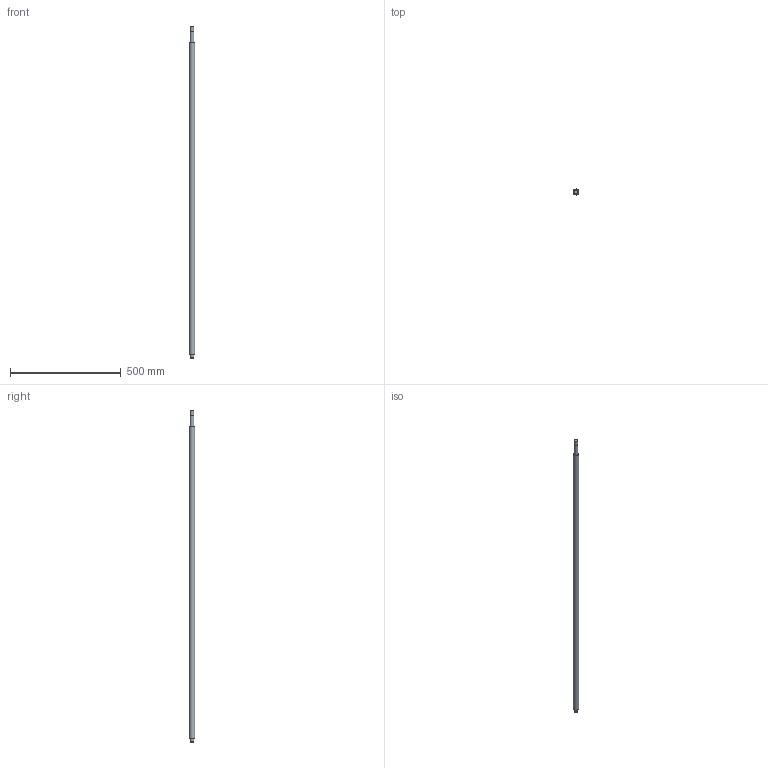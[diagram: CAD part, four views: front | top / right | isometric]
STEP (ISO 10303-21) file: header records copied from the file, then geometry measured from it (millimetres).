
FILE_DESCRIPTION(/* description */ (''),/* implementation_level */ '2;1');
FILE_NAME(/* name */ 'C:\Users\David Dillkötter\ownCloud\Kamp und Kötter\Artikel\_CAD-Dateien\CAD-Dateien-Shop\CAD-Dateien\Kugelumlaufspindel\2510\KUS2510x1500.stp',/* time_stamp */ '2020-09-03T09:46:41+02:00',/* author */ ('David Dillkötter'),/* organization */ (''),/* preprocessor_version */ 'ST-DEVELOPER v18.1',/* originating_system */ 'Autodesk Inventor 2021',/* authorisation */ '');
FILE_SCHEMA (('AUTOMOTIVE_DESIGN { 1 0 10303 214 3 1 1 }'));
Length unit declared in the file: millimetre
Products named in the file (1): KUS2510_Gewindespindel
Bounding box: 25 x 25 x 1500 mm (x, y, z)
Volume: 710847.8 mm3; surface area: 116346.1 mm2
Topology: 1 solids, 1 shells, 17 faces, 30 edges, 20 vertices
Faces by surface type: plane 7, cylinder 6, cone 4
Full cylindrical faces by diameter (mm): 15 x1, 16.2 x1, 17 x3, 25 x1
Entity records: 465 total; most frequent: DIRECTION 86, CARTESIAN_POINT 68, ORIENTED_EDGE 60, AXIS2_PLACEMENT_3D 38, EDGE_CURVE 30, EDGE_LOOP 22, CIRCLE 20, VERTEX_POINT 20
